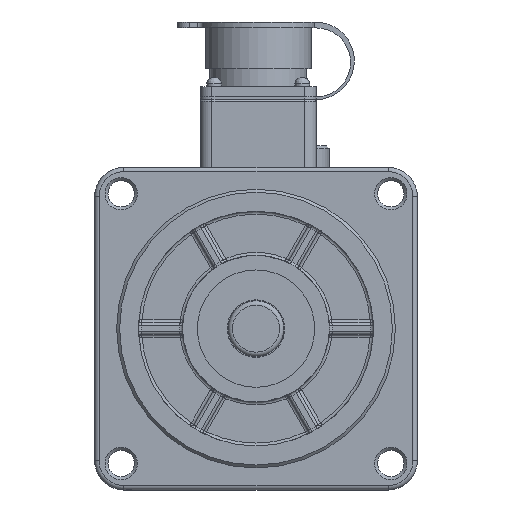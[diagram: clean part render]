
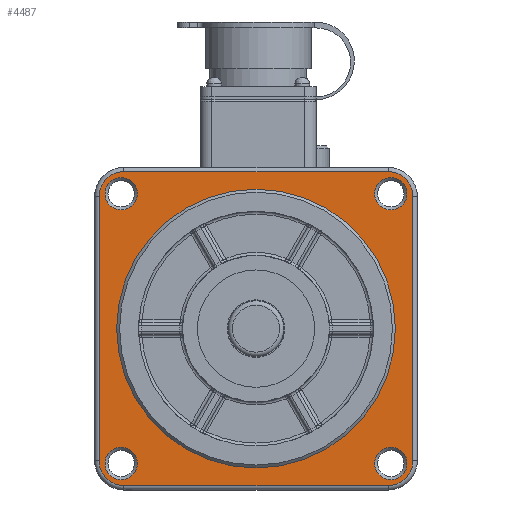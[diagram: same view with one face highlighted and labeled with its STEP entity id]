
A CAD part, front view. The second image highlights one B-rep face of the part: STEP entity #4487.
In plain terms, the highlighted planar face has unit normal (0, -1, 0).
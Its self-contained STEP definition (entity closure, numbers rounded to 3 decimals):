
#1157=LINE('',#27782,#2065);
#1158=LINE('',#27787,#2066);
#1159=LINE('',#27791,#2067);
#1160=LINE('',#27795,#2068);
#2065=VECTOR('',#21755,1.);
#2066=VECTOR('',#21758,1.);
#2067=VECTOR('',#21761,1.);
#2068=VECTOR('',#21764,1.);
#2887=PLANE('',#17538);
#4487=ADVANCED_FACE('',(#5613,#5614,#5615,#5616,#5617,#5618),#2887,.F.);
#5613=FACE_BOUND('',#6552,.T.);
#5614=FACE_BOUND('',#6553,.T.);
#5615=FACE_BOUND('',#6554,.T.);
#5616=FACE_BOUND('',#6555,.T.);
#5617=FACE_BOUND('',#6556,.T.);
#5618=FACE_BOUND('',#6557,.T.);
#6552=EDGE_LOOP('',(#9910,#9911,#9912,#9913,#9914,#9915,#9916,#9917));
#6553=EDGE_LOOP('',(#9918));
#6554=EDGE_LOOP('',(#9919));
#6555=EDGE_LOOP('',(#9920));
#6556=EDGE_LOOP('',(#9921));
#6557=EDGE_LOOP('',(#9922));
#9910=ORIENTED_EDGE('',*,*,#14344,.T.);
#9911=ORIENTED_EDGE('',*,*,#14345,.T.);
#9912=ORIENTED_EDGE('',*,*,#14346,.T.);
#9913=ORIENTED_EDGE('',*,*,#14347,.T.);
#9914=ORIENTED_EDGE('',*,*,#14348,.T.);
#9915=ORIENTED_EDGE('',*,*,#14349,.T.);
#9916=ORIENTED_EDGE('',*,*,#14350,.T.);
#9917=ORIENTED_EDGE('',*,*,#14351,.T.);
#9918=ORIENTED_EDGE('',*,*,#14327,.T.);
#9919=ORIENTED_EDGE('',*,*,#14352,.F.);
#9920=ORIENTED_EDGE('',*,*,#14353,.T.);
#9921=ORIENTED_EDGE('',*,*,#14354,.T.);
#9922=ORIENTED_EDGE('',*,*,#14355,.T.);
#12450=VERTEX_POINT('',#27718);
#12463=VERTEX_POINT('',#27783);
#12464=VERTEX_POINT('',#27784);
#12465=VERTEX_POINT('',#27786);
#12466=VERTEX_POINT('',#27788);
#12467=VERTEX_POINT('',#27790);
#12468=VERTEX_POINT('',#27792);
#12469=VERTEX_POINT('',#27794);
#12470=VERTEX_POINT('',#27796);
#12471=VERTEX_POINT('',#27799);
#12472=VERTEX_POINT('',#27801);
#12473=VERTEX_POINT('',#27803);
#12474=VERTEX_POINT('',#27805);
#14327=EDGE_CURVE('',#12450,#12450,#15722,.T.);
#14344=EDGE_CURVE('',#12463,#12464,#1157,.T.);
#14345=EDGE_CURVE('',#12464,#12465,#15735,.T.);
#14346=EDGE_CURVE('',#12465,#12466,#1158,.T.);
#14347=EDGE_CURVE('',#12466,#12467,#15736,.T.);
#14348=EDGE_CURVE('',#12467,#12468,#1159,.T.);
#14349=EDGE_CURVE('',#12468,#12469,#15737,.T.);
#14350=EDGE_CURVE('',#12469,#12470,#1160,.T.);
#14351=EDGE_CURVE('',#12470,#12463,#15738,.T.);
#14352=EDGE_CURVE('',#12471,#12471,#15739,.T.);
#14353=EDGE_CURVE('',#12472,#12472,#15740,.T.);
#14354=EDGE_CURVE('',#12473,#12473,#15741,.T.);
#14355=EDGE_CURVE('',#12474,#12474,#15742,.T.);
#15722=CIRCLE('',#17512,5.5);
#15735=CIRCLE('',#17530,8.5);
#15736=CIRCLE('',#17531,8.5);
#15737=CIRCLE('',#17532,8.5);
#15738=CIRCLE('',#17533,8.5);
#15739=CIRCLE('',#17534,47.5);
#15740=CIRCLE('',#17535,5.5);
#15741=CIRCLE('',#17536,5.5);
#15742=CIRCLE('',#17537,5.5);
#17512=AXIS2_PLACEMENT_3D('',#27717,#21717,#21718);
#17530=AXIS2_PLACEMENT_3D('',#27785,#21756,#21757);
#17531=AXIS2_PLACEMENT_3D('',#27789,#21759,#21760);
#17532=AXIS2_PLACEMENT_3D('',#27793,#21762,#21763);
#17533=AXIS2_PLACEMENT_3D('',#27797,#21765,#21766);
#17534=AXIS2_PLACEMENT_3D('',#27798,#21767,#21768);
#17535=AXIS2_PLACEMENT_3D('',#27800,#21769,#21770);
#17536=AXIS2_PLACEMENT_3D('',#27802,#21771,#21772);
#17537=AXIS2_PLACEMENT_3D('',#27804,#21773,#21774);
#17538=AXIS2_PLACEMENT_3D('',#27806,#21775,#21776);
#21717=DIRECTION('',(0.,1.,0.));
#21718=DIRECTION('',(-1.,0.,0.));
#21755=DIRECTION('',(0.,0.,1.));
#21756=DIRECTION('',(0.,-1.,0.));
#21757=DIRECTION('',(0.,0.,1.));
#21758=DIRECTION('',(-1.,0.,0.));
#21759=DIRECTION('',(0.,-1.,0.));
#21760=DIRECTION('',(0.,0.,1.));
#21761=DIRECTION('',(0.,0.,-1.));
#21762=DIRECTION('',(0.,-1.,0.));
#21763=DIRECTION('',(0.,0.,1.));
#21764=DIRECTION('',(1.,0.,0.));
#21765=DIRECTION('',(0.,-1.,0.));
#21766=DIRECTION('',(0.,0.,1.));
#21767=DIRECTION('',(0.,-1.,0.));
#21768=DIRECTION('',(-1.,0.,0.));
#21769=DIRECTION('',(0.,1.,0.));
#21770=DIRECTION('',(-1.,0.,0.));
#21771=DIRECTION('',(0.,1.,0.));
#21772=DIRECTION('',(-1.,0.,0.));
#21773=DIRECTION('',(0.,1.,0.));
#21774=DIRECTION('',(-1.,0.,0.));
#21775=DIRECTION('',(0.,1.,0.));
#21776=DIRECTION('',(1.,0.,0.));
#27717=CARTESIAN_POINT('',(251.086,483.922,-137.154));
#27718=CARTESIAN_POINT('',(245.586,483.922,-137.154));
#27782=CARTESIAN_POINT('',(258.624,483.922,-46.192));
#27783=CARTESIAN_POINT('',(258.624,483.922,-136.192));
#27784=CARTESIAN_POINT('',(258.624,483.922,-46.192));
#27785=CARTESIAN_POINT('',(250.124,483.922,-46.192));
#27786=CARTESIAN_POINT('',(250.124,483.922,-37.692));
#27787=CARTESIAN_POINT('',(160.124,483.922,-37.692));
#27788=CARTESIAN_POINT('',(160.124,483.922,-37.692));
#27789=CARTESIAN_POINT('',(160.124,483.922,-46.192));
#27790=CARTESIAN_POINT('',(151.624,483.922,-46.192));
#27791=CARTESIAN_POINT('',(151.624,483.922,-136.192));
#27792=CARTESIAN_POINT('',(151.624,483.922,-136.192));
#27793=CARTESIAN_POINT('',(160.124,483.922,-136.192));
#27794=CARTESIAN_POINT('',(160.124,483.922,-144.692));
#27795=CARTESIAN_POINT('',(250.124,483.922,-144.692));
#27796=CARTESIAN_POINT('',(250.124,483.922,-144.692));
#27797=CARTESIAN_POINT('',(250.124,483.922,-136.192));
#27798=CARTESIAN_POINT('',(205.124,483.922,-91.192));
#27799=CARTESIAN_POINT('',(157.624,483.922,-91.192));
#27800=CARTESIAN_POINT('',(251.086,483.922,-45.23));
#27801=CARTESIAN_POINT('',(245.586,483.922,-45.23));
#27802=CARTESIAN_POINT('',(159.162,483.922,-45.23));
#27803=CARTESIAN_POINT('',(153.662,483.922,-45.23));
#27804=CARTESIAN_POINT('',(159.162,483.922,-137.154));
#27805=CARTESIAN_POINT('',(153.662,483.922,-137.154));
#27806=CARTESIAN_POINT('',(205.124,483.922,-91.192));
